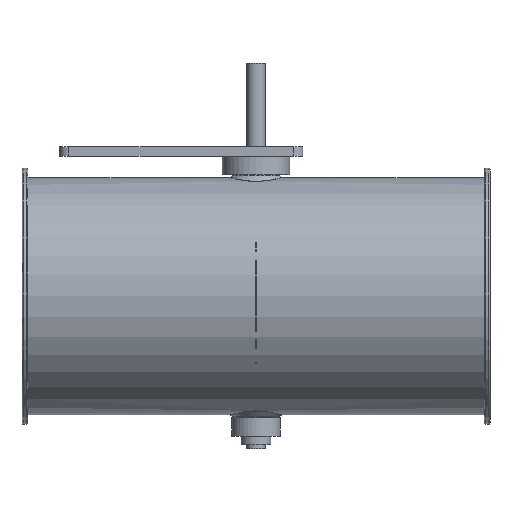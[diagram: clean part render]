
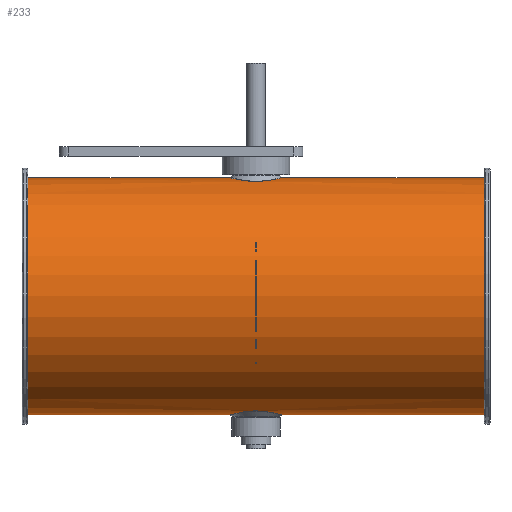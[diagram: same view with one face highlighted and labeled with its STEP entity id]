
A CAD part, top view. The second image highlights one B-rep face of the part: STEP entity #233.
In plain terms, the highlighted cylindrical face has radius 63.3 mm (diameter 126.6 mm), a full revolution.
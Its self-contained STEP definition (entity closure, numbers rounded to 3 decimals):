
#175=B_SPLINE_CURVE_WITH_KNOTS('',3,(#1555,#1556,#1557,#1558,#1559,#1560,
#1561,#1562,#1563,#1564,#1565,#1566,#1567,#1568,#1569,#1570,#1571,#1572,
#1573,#1574,#1575,#1576),.UNSPECIFIED.,.T.,.F.,(2,2,2,2,2,2,2,2,2,2,2,2,
2),(-0.063,0.,0.125,0.25,0.375,0.438,0.5,0.625,0.75,0.875,
0.938,1.,1.125),.UNSPECIFIED.);
#176=B_SPLINE_CURVE_WITH_KNOTS('',3,(#1578,#1579,#1580,#1581,#1582,#1583,
#1584,#1585,#1586,#1587,#1588,#1589,#1590,#1591,#1592,#1593,#1594,#1595,
#1596,#1597,#1598,#1599,#1600,#1601,#1602,#1603),.UNSPECIFIED.,.T.,.F.,(2,
2,2,2,2,2,2,2,2,2,2,2,2,2,2),(-0.063,0.,0.063,0.125,0.25,0.375,
0.5,0.562,0.625,0.687,
0.75,0.875,0.938,1.,1.063),.UNSPECIFIED.);
#202=CYLINDRICAL_SURFACE('',#1096,63.3);
#233=ADVANCED_FACE('',(#345,#346,#347,#348),#202,.T.);
#345=FACE_BOUND('',#479,.T.);
#346=FACE_BOUND('',#480,.T.);
#347=FACE_BOUND('',#481,.T.);
#348=FACE_BOUND('',#482,.T.);
#479=EDGE_LOOP('',(#627));
#480=EDGE_LOOP('',(#628));
#481=EDGE_LOOP('',(#629));
#482=EDGE_LOOP('',(#630));
#627=ORIENTED_EDGE('',*,*,#915,.T.);
#628=ORIENTED_EDGE('',*,*,#916,.T.);
#629=ORIENTED_EDGE('',*,*,#917,.T.);
#630=ORIENTED_EDGE('',*,*,#918,.F.);
#825=VERTEX_POINT('',#1554);
#826=VERTEX_POINT('',#1577);
#827=VERTEX_POINT('',#1604);
#828=VERTEX_POINT('',#1606);
#915=EDGE_CURVE('',#825,#825,#1017,.T.);
#916=EDGE_CURVE('',#826,#826,#175,.T.);
#917=EDGE_CURVE('',#827,#827,#176,.T.);
#918=EDGE_CURVE('',#828,#828,#1018,.T.);
#1017=CIRCLE('',#1094,63.3);
#1018=CIRCLE('',#1095,63.3);
#1094=AXIS2_PLACEMENT_3D('',#1553,#1250,#1251);
#1095=AXIS2_PLACEMENT_3D('',#1605,#1252,#1253);
#1096=AXIS2_PLACEMENT_3D('',#1607,#1254,#1255);
#1250=DIRECTION('',(1.,0.,0.));
#1251=DIRECTION('',(0.,0.,1.));
#1252=DIRECTION('',(1.,0.,0.));
#1253=DIRECTION('',(0.,0.,1.));
#1254=DIRECTION('',(1.,0.,0.));
#1255=DIRECTION('',(0.,0.,-1.));
#1553=CARTESIAN_POINT('',(-122.,-20.8,125.));
#1554=CARTESIAN_POINT('',(-122.,-20.8,188.3));
#1555=CARTESIAN_POINT('',(-1.423,-82.012,108.867));
#1556=CARTESIAN_POINT('',(-7.199,-82.427,110.501));
#1557=CARTESIAN_POINT('',(-10.326,-83.122,113.378));
#1558=CARTESIAN_POINT('',(-13.997,-84.024,120.327));
#1559=CARTESIAN_POINT('',(-14.59,-84.217,124.512));
#1560=CARTESIAN_POINT('',(-13.084,-83.803,132.248));
#1561=CARTESIAN_POINT('',(-10.977,-83.202,135.898));
#1562=CARTESIAN_POINT('',(-6.335,-82.435,139.474));
#1563=CARTESIAN_POINT('',(-4.513,-82.208,140.366));
#1564=CARTESIAN_POINT('',(-0.609,-81.993,141.202));
#1565=CARTESIAN_POINT('',(1.444,-82.014,141.127));
#1566=CARTESIAN_POINT('',(7.139,-82.423,139.518));
#1567=CARTESIAN_POINT('',(10.293,-83.115,136.669));
#1568=CARTESIAN_POINT('',(14.002,-84.025,129.678));
#1569=CARTESIAN_POINT('',(14.599,-84.219,125.558));
#1570=CARTESIAN_POINT('',(13.082,-83.802,117.719));
#1571=CARTESIAN_POINT('',(11.036,-83.212,114.149));
#1572=CARTESIAN_POINT('',(6.313,-82.431,110.508));
#1573=CARTESIAN_POINT('',(4.491,-82.207,109.629));
#1574=CARTESIAN_POINT('',(0.628,-81.994,108.802));
#1575=CARTESIAN_POINT('',(-1.423,-82.012,108.867));
#1576=CARTESIAN_POINT('',(-7.199,-82.427,110.501));
#1577=CARTESIAN_POINT('',(-3.348,-82.151,109.411));
#1578=CARTESIAN_POINT('',(-5.274,40.689,109.956));
#1579=CARTESIAN_POINT('',(-1.423,40.412,108.867));
#1580=CARTESIAN_POINT('',(0.619,40.394,108.801));
#1581=CARTESIAN_POINT('',(4.488,40.606,109.627));
#1582=CARTESIAN_POINT('',(6.322,40.833,110.515));
#1583=CARTESIAN_POINT('',(11.011,41.608,114.129));
#1584=CARTESIAN_POINT('',(13.094,42.206,117.776));
#1585=CARTESIAN_POINT('',(14.59,42.616,125.515));
#1586=CARTESIAN_POINT('',(13.988,42.422,129.697));
#1587=CARTESIAN_POINT('',(10.322,41.522,136.623));
#1588=CARTESIAN_POINT('',(7.209,40.831,139.486));
#1589=CARTESIAN_POINT('',(1.465,40.414,141.127));
#1590=CARTESIAN_POINT('',(-0.582,40.393,141.203));
#1591=CARTESIAN_POINT('',(-4.487,40.606,140.376));
#1592=CARTESIAN_POINT('',(-6.307,40.831,139.492));
#1593=CARTESIAN_POINT('',(-9.427,41.346,137.096));
#1594=CARTESIAN_POINT('',(-10.739,41.633,135.582));
#1595=CARTESIAN_POINT('',(-12.76,42.115,132.183));
#1596=CARTESIAN_POINT('',(-13.461,42.306,130.322));
#1597=CARTESIAN_POINT('',(-14.599,42.619,124.445));
#1598=CARTESIAN_POINT('',(-14.013,42.428,120.348));
#1599=CARTESIAN_POINT('',(-11.222,41.743,115.079));
#1600=CARTESIAN_POINT('',(-10.019,41.467,113.533));
#1601=CARTESIAN_POINT('',(-7.018,40.933,110.941));
#1602=CARTESIAN_POINT('',(-5.274,40.689,109.956));
#1603=CARTESIAN_POINT('',(-1.423,40.412,108.867));
#1604=CARTESIAN_POINT('',(-3.348,40.551,109.411));
#1605=CARTESIAN_POINT('',(122.,-20.8,125.));
#1606=CARTESIAN_POINT('',(122.,-20.8,188.3));
#1607=CARTESIAN_POINT('',(-125.,-20.8,125.));
